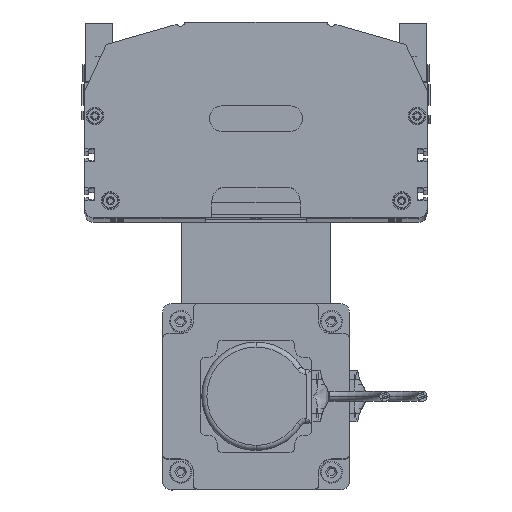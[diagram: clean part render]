
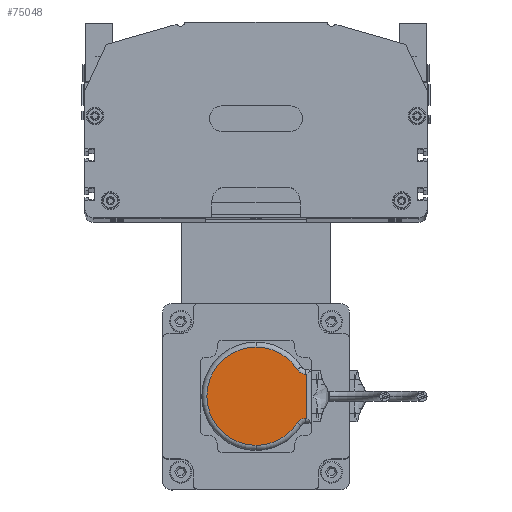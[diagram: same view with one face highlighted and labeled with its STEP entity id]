
A CAD part, top view. The second image highlights one B-rep face of the part: STEP entity #75048.
In plain terms, the highlighted planar face has unit normal (0, 0, 1).
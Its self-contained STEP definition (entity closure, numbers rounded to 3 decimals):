
#5582 = CARTESIAN_POINT ( 'NONE',  ( 17.257, 57.355, 25. ) ) ;
#5992 = CARTESIAN_POINT ( 'NONE',  ( 4., 33., 25. ) ) ;
#6581 = DIRECTION ( 'NONE',  ( 0., 0., 1. ) ) ;
#6586 = FACE_OUTER_BOUND ( 'NONE', #75139, .T. ) ;
#6594 = CARTESIAN_POINT ( 'NONE',  ( 33., 33., 25. ) ) ;
#6705 = CIRCLE ( 'NONE', #6767, 6. ) ;
#6734 = DIRECTION ( 'NONE',  ( 1., 0., 0. ) ) ;
#6742 = CARTESIAN_POINT ( 'NONE',  ( 20., 63., 25. ) ) ;
#6756 = DIRECTION ( 'NONE',  ( 1., 0., 0. ) ) ;
#6758 = DIRECTION ( 'NONE',  ( 0., 0., 1. ) ) ;
#6759 = CARTESIAN_POINT ( 'NONE',  ( 14., 62.394, 25. ) ) ;
#6767 = AXIS2_PLACEMENT_3D ( 'NONE', #6759, #6758, #6756 ) ;
#6811 = CARTESIAN_POINT ( 'NONE',  ( 20., 62.394, 25. ) ) ;
#6973 = PLANE ( 'NONE',  #7026 ) ;
#7026 = AXIS2_PLACEMENT_3D ( 'NONE', #6594, #6581, #6734 ) ;
#7036 = DIRECTION ( 'NONE',  ( -1., 0., 0. ) ) ;
#7039 = VECTOR ( 'NONE', #7036, 1000. ) ;
#7043 = CARTESIAN_POINT ( 'NONE',  ( 17.5, 63., 25. ) ) ;
#7050 = LINE ( 'NONE', #7043, #7039 ) ;
#7147 = CARTESIAN_POINT ( 'NONE',  ( 46., 62.394, 25. ) ) ;
#7194 = CIRCLE ( 'NONE', #7332, 29. ) ;
#7315 = CIRCLE ( 'NONE', #7583, 29. ) ;
#7330 = CARTESIAN_POINT ( 'NONE',  ( 33., 33., 25. ) ) ;
#7332 = AXIS2_PLACEMENT_3D ( 'NONE', #7330, #7561, #7560 ) ;
#7427 = DIRECTION ( 'NONE',  ( 1., 0., 0. ) ) ;
#7433 = DIRECTION ( 'NONE',  ( 0., 1., 0. ) ) ;
#7515 = CARTESIAN_POINT ( 'NONE',  ( 48.743, 57.355, 25. ) ) ;
#7521 = CARTESIAN_POINT ( 'NONE',  ( 62., 33., 25. ) ) ;
#7535 = LINE ( 'NONE', #7596, #7594 ) ;
#7541 = DIRECTION ( 'NONE',  ( 0., -1., 0. ) ) ;
#7542 = VECTOR ( 'NONE', #7541, 1000. ) ;
#7544 = CARTESIAN_POINT ( 'NONE',  ( 20., 33., 25. ) ) ;
#7554 = LINE ( 'NONE', #7544, #7542 ) ;
#7560 = DIRECTION ( 'NONE',  ( 1., 0., 0. ) ) ;
#7561 = DIRECTION ( 'NONE',  ( 0., 0., 1. ) ) ;
#7579 = DIRECTION ( 'NONE',  ( 1., 0., 0. ) ) ;
#7580 = DIRECTION ( 'NONE',  ( 0., 0., 1. ) ) ;
#7582 = CARTESIAN_POINT ( 'NONE',  ( 33., 33., 25. ) ) ;
#7583 = AXIS2_PLACEMENT_3D ( 'NONE', #7582, #7580, #7579 ) ;
#7588 = CIRCLE ( 'NONE', #7610, 6. ) ;
#7594 = VECTOR ( 'NONE', #7433, 1000. ) ;
#7596 = CARTESIAN_POINT ( 'NONE',  ( 46., 33., 25. ) ) ;
#7601 = CARTESIAN_POINT ( 'NONE',  ( 52., 62.394, 25. ) ) ;
#7604 = CARTESIAN_POINT ( 'NONE',  ( 46., 63., 25. ) ) ;
#7609 = DIRECTION ( 'NONE',  ( 0., 0., 1. ) ) ;
#7610 = AXIS2_PLACEMENT_3D ( 'NONE', #7601, #7609, #7427 ) ;
#7782 = EDGE_CURVE ( 'NONE', #74833, #74950, #23652, .T. ) ;
#23587 = DIRECTION ( 'NONE',  ( 1., 0., 0. ) ) ;
#23588 = DIRECTION ( 'NONE',  ( 0., 0., 1. ) ) ;
#23589 = CARTESIAN_POINT ( 'NONE',  ( 33., 33., 25. ) ) ;
#23590 = AXIS2_PLACEMENT_3D ( 'NONE', #23589, #23588, #23587 ) ;
#23652 = CIRCLE ( 'NONE', #23590, 29. ) ;
#74833 = VERTEX_POINT ( 'NONE', #5582 ) ;
#74950 = VERTEX_POINT ( 'NONE', #5992 ) ;
#74994 = ORIENTED_EDGE ( 'NONE', *, *, #75008, .F. ) ;
#75000 = VERTEX_POINT ( 'NONE', #6811 ) ;
#75001 = VERTEX_POINT ( 'NONE', #7147 ) ;
#75008 = EDGE_CURVE ( 'NONE', #74833, #75000, #6705, .T. ) ;
#75010 = ORIENTED_EDGE ( 'NONE', *, *, #75027, .T. ) ;
#75014 = ORIENTED_EDGE ( 'NONE', *, *, #75143, .T. ) ;
#75027 = EDGE_CURVE ( 'NONE', #75177, #75051, #7050, .T. ) ;
#75048 = ADVANCED_FACE ( 'NONE', ( #6586 ), #6973, .T. ) ;
#75049 = ORIENTED_EDGE ( 'NONE', *, *, #7782, .T. ) ;
#75051 = VERTEX_POINT ( 'NONE', #6742 ) ;
#75052 = ORIENTED_EDGE ( 'NONE', *, *, #75132, .T. ) ;
#75105 = ORIENTED_EDGE ( 'NONE', *, *, #75173, .F. ) ;
#75132 = EDGE_CURVE ( 'NONE', #74950, #75164, #7194, .T. ) ;
#75139 = EDGE_LOOP ( 'NONE', ( #74994, #75049, #75052, #75172, #75105, #75154, #75010, #75014 ) ) ;
#75143 = EDGE_CURVE ( 'NONE', #75051, #75000, #7554, .T. ) ;
#75147 = EDGE_CURVE ( 'NONE', #75001, #75177, #7535, .T. ) ;
#75154 = ORIENTED_EDGE ( 'NONE', *, *, #75147, .T. ) ;
#75164 = VERTEX_POINT ( 'NONE', #7521 ) ;
#75168 = EDGE_CURVE ( 'NONE', #75164, #75170, #7315, .T. ) ;
#75170 = VERTEX_POINT ( 'NONE', #7515 ) ;
#75172 = ORIENTED_EDGE ( 'NONE', *, *, #75168, .T. ) ;
#75173 = EDGE_CURVE ( 'NONE', #75001, #75170, #7588, .T. ) ;
#75177 = VERTEX_POINT ( 'NONE', #7604 ) ;
